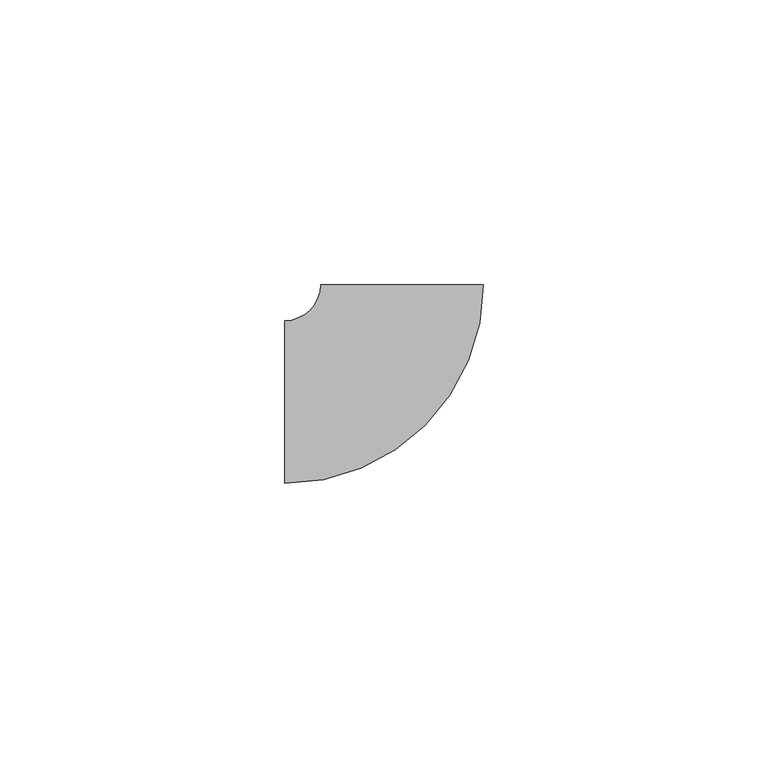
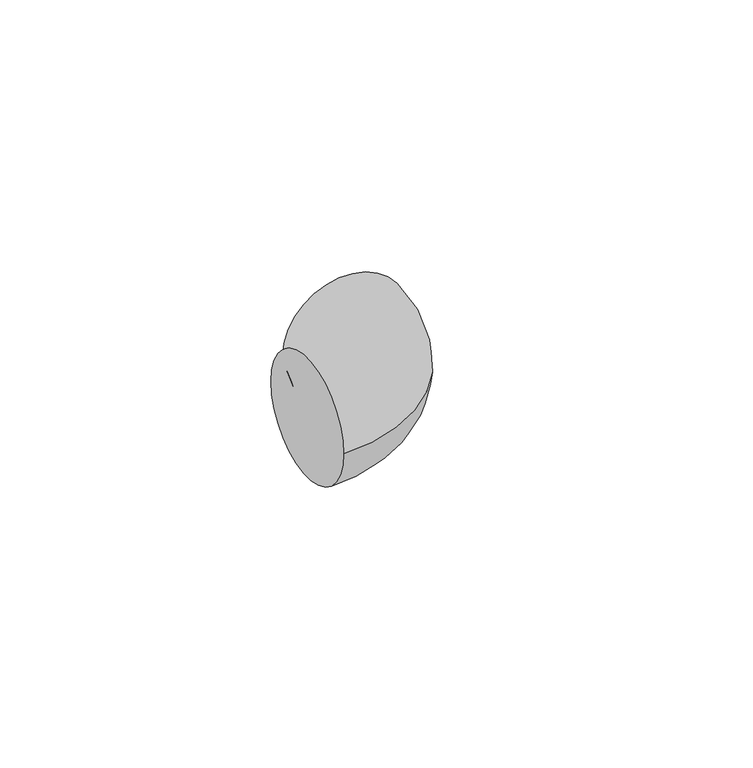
"""IFC4 building model written with IfcOpenShell, lengths in millimetres: pipe fitting geometry, M_Codo - Genérico : Estándar."""

import ifcopenshell
import ifcopenshell.guid

model = None  # the IFC model being written
_history = None  # IfcOwnerHistory: only IFC2X3 demands one
_inside = {}  # id of a spatial element -> (the spatial element, [elements in it])
_under = {}  # id of a project, library or spatial element -> (it, [spatial elements below it])
_declared = {}  # id of a project -> (the project, [libraries it declares])
_typed = {}  # id of a type object -> (the type object, [elements of that type])
_made_of = {}  # id of a material, layer set ... -> (it, [elements and type objects made of it])


def new_model(schema):
    """Start an empty IFC model of exactly this schema.

    Asked for "IFC4X3", IfcOpenShell would pick the latest addendum, in which some entities
    have other attributes; the version numbers below select the first issue.
    IFC2X3 requires an IfcOwnerHistory on every rooted entity: one is made here for all.
    """
    global model, _history
    if schema == "IFC4X3":
        model = ifcopenshell.file(schema_version=(4, 3, 0, 0))
    else:
        model = ifcopenshell.file(schema=schema)
    _inside.clear()
    _under.clear()
    _declared.clear()
    _typed.clear()
    _made_of.clear()
    _history = None
    if model.schema == "IFC2X3":
        org = make("IfcOrganization", Name="unknown")
        user = make(
            "IfcPersonAndOrganization",
            ThePerson=make("IfcPerson", FamilyName="unknown"),
            TheOrganization=org,
        )
        app = make(
            "IfcApplication",
            ApplicationDeveloper=org,
            Version="unknown",
            ApplicationFullName="unknown",
            ApplicationIdentifier="unknown",
        )
        _history = make(
            "IfcOwnerHistory",
            OwningUser=user,
            OwningApplication=app,
            ChangeAction="ADDED",
            CreationDate=0,
        )
    return model


def make(cls, **values):
    """One entity of the class cls with the attributes given. An attribute that is None is left unset."""
    return model.create_entity(
        cls, **{name: value for name, value in values.items() if value is not None}
    )


def rooted(cls, **values):
    """An entity with a GlobalId (a new one), such as an element, a storey or a relation."""
    return make(cls, GlobalId=ifcopenshell.guid.new(), OwnerHistory=_history, **values)


def si_unit(unit_type, name, prefix=None):
    """IfcSIUnit, for example si_unit("LENGTHUNIT", "METRE", prefix="MILLI")."""
    return make("IfcSIUnit", UnitType=unit_type, Prefix=prefix, Name=name)


def assignment(units):
    """IfcUnitAssignment: the units of a project."""
    return None if units is None else make("IfcUnitAssignment", Units=units)


def point(xyz):
    """IfcCartesianPoint."""
    return None if xyz is None else make("IfcCartesianPoint", Coordinates=xyz)


def direction(xyz):
    """IfcDirection."""
    return None if xyz is None else make("IfcDirection", DirectionRatios=xyz)


def frame(location, z_axis=None, x_axis=None):
    """IfcAxis2Placement3D, a coordinate frame: its origin and axes. An axis left out is left unset."""
    return make(
        "IfcAxis2Placement3D",
        Location=point(location),
        Axis=direction(z_axis),
        RefDirection=direction(x_axis),
    )


def origin():
    """The frame at (0, 0, 0) with its axes left unset."""
    return frame((0.0, 0.0, 0.0))


def place(relative_to, where):
    """IfcLocalPlacement: puts the frame where relative to a parent placement (None: the world)."""
    return make(
        "IfcLocalPlacement", PlacementRelTo=relative_to, RelativePlacement=where
    )


def context(
    kind, dimensions, precision=None, world=None, true_north=None, identifier=None
):
    """IfcGeometricRepresentationContext, for example the 3D "Model" context."""
    return make(
        "IfcGeometricRepresentationContext",
        ContextIdentifier=identifier,
        ContextType=kind,
        CoordinateSpaceDimension=dimensions,
        Precision=precision,
        WorldCoordinateSystem=world,
        TrueNorth=true_north,
    )


def project(units=None, contexts=None):
    """IfcProject with its units and contexts."""
    return rooted(
        "IfcProject",
        Name="project",
        RepresentationContexts=contexts,
        UnitsInContext=assignment(units),
    )


def spatial(cls, under=None, at=None, **own):
    """A site, building, storey or space (cls), placed at a placement, below another one or the project."""
    s = rooted(cls, ObjectPlacement=at, **own)
    if under is not None:
        _under.setdefault(under.id(), (under, []))[1].append(s)
    return s


def circle_curve(where, radius):
    """IfcCircle in the frame where."""
    return make("IfcCircle", Position=where, Radius=radius)


def ellipse_curve(where, semi_axis1, semi_axis2):
    """IfcEllipse in the frame where."""
    return make(
        "IfcEllipse", Position=where, SemiAxis1=semi_axis1, SemiAxis2=semi_axis2
    )


def trimmed(basis, trim1, trim2, sense, master):
    """IfcTrimmedCurve: the piece of a basis curve between two trims."""
    return make(
        "IfcTrimmedCurve",
        BasisCurve=basis,
        Trim1=trim1,
        Trim2=trim2,
        SenseAgreement=sense,
        MasterRepresentation=master,
    )


def shape(context_of_items, identifier, shape_type, items):
    """IfcShapeRepresentation: the items that make up one representation, for example the "Body"."""
    return make(
        "IfcShapeRepresentation",
        ContextOfItems=context_of_items,
        RepresentationIdentifier=identifier,
        RepresentationType=shape_type,
        Items=items,
    )


def source(mapping_origin, context_of_items, identifier, shape_type, items):
    """IfcRepresentationMap: a shape defined once, which mapped items show again and again."""
    return make(
        "IfcRepresentationMap",
        MappingOrigin=mapping_origin,
        MappedRepresentation=shape(context_of_items, identifier, shape_type, items),
    )


def transform(
    local_origin,
    x_axis=None,
    y_axis=None,
    z_axis=None,
    scale=None,
    scale2=None,
    scale3=None,
    uniform=True,
):
    """IfcCartesianTransformationOperator3D, or its non-uniform kind. x_axis, y_axis, z_axis: its Axis1, 2, 3."""
    if uniform:
        return make(
            "IfcCartesianTransformationOperator3D",
            Axis1=direction(x_axis),
            Axis2=direction(y_axis),
            LocalOrigin=point(local_origin),
            Scale=scale,
            Axis3=direction(z_axis),
        )
    return make(
        "IfcCartesianTransformationOperator3DnonUniform",
        Axis1=direction(x_axis),
        Axis2=direction(y_axis),
        LocalOrigin=point(local_origin),
        Scale=scale,
        Axis3=direction(z_axis),
        Scale2=scale2,
        Scale3=scale3,
    )


def mapped(mapping_source, mapping_target):
    """IfcMappedItem: shows the shape of a source again, moved by a transform."""
    return make(
        "IfcMappedItem", MappingSource=mapping_source, MappingTarget=mapping_target
    )


def made_of(thing, what):
    """Note that an element or type object is made of a material, layer set ...; save() writes the relation."""
    if what is not None:
        _made_of.setdefault(what.id(), (what, []))[1].append(thing)
    return thing


def element(
    cls,
    number,
    at=None,
    inside=None,
    cuts=None,
    type_object=None,
    material=None,
    context=None,
    identifier="Body",
    shape_type=None,
    held_by="IfcProductDefinitionShape",
    body=None,
    shapes=None,
    **own,
):
    """One element of the class cls, such as IfcWall. Its Tag is "e" and its number.

    at: its placement. inside: the storey or other place that contains it. cuts: it is an
    opening in that element (IfcRelVoidsElement). A single representation is given by context,
    identifier, shape_type and body (its items); several are given by shapes. held_by: the class
    of the entity that holds the representations. save() writes the other relations.
    """
    e = rooted(cls, Tag="e%d" % number, ObjectPlacement=at, **own)
    if body is not None:
        shapes = [shape(context, identifier, shape_type, body)]
    if shapes is not None:
        e.Representation = make(held_by, Representations=shapes)
    if inside is not None:
        _inside.setdefault(inside.id(), (inside, []))[1].append(e)
    if cuts is not None:
        rooted(
            "IfcRelVoidsElement", RelatingBuildingElement=cuts, RelatedOpeningElement=e
        )
    if type_object is not None:
        _typed.setdefault(type_object.id(), (type_object, []))[1].append(e)
    return made_of(e, material)


def aggregate(whole, parts):
    """IfcRelAggregates: a whole, such as a stair, and the parts it consists of."""
    return rooted("IfcRelAggregates", RelatingObject=whole, RelatedObjects=parts)


def save(model, path):
    """Write the relations noted so far, then the file.

    IfcRelAggregates (storeys below a building ...), IfcRelContainedInSpatialStructure (elements
    in a storey), IfcRelDefinesByType, IfcRelAssociatesMaterial and IfcRelDeclares: one each for
    every whole, place, type object, material and project.
    """
    for whole, parts in _under.values():
        aggregate(whole, parts)
    for where, things in _inside.values():
        rooted(
            "IfcRelContainedInSpatialStructure",
            RelatedElements=things,
            RelatingStructure=where,
        )
    for kind, things in _typed.values():
        rooted("IfcRelDefinesByType", RelatedObjects=things, RelatingType=kind)
    for what, things in _made_of.values():
        rooted("IfcRelAssociatesMaterial", RelatedObjects=things, RelatingMaterial=what)
    for by, libraries in _declared.values():
        rooted("IfcRelDeclares", RelatingContext=by, RelatedDefinitions=libraries)
    model.write(path)


def plane_surface(at):
    """IfcPlane: the flat surface through the origin of the frame at, square to its z axis."""
    return make("IfcPlane", Position=at)


def revolved_surface(curve, axis_point, axis_direction):
    """IfcSurfaceOfRevolution: the curve turned about the line through axis_point along axis_direction."""
    return make(
        "IfcSurfaceOfRevolution",
        SweptCurve=make("IfcArbitraryOpenProfileDef", ProfileType="CURVE", Curve=curve),
        AxisPosition=make("IfcAxis1Placement", Location=point(axis_point), Axis=direction(axis_direction)),
    )


def advanced_brep(points, edges, surfaces, faces):
    """IfcAdvancedBrep: a solid bounded by faces that lie on surfaces and meet in shared edges.

    An edge is (start, end): straight between two places in points (the first is 0);
    or (start, end, curve); or (start, end, curve, False) where it runs against its curve.
    A face is (place in surfaces, loops), or (place, loops, False) where it looks against
    its surface's normal. A loop lists edges by number (the first is 1), with a minus sign
    where the edge is run from its end to its start. The first loop is the outer one.
    """
    corners = [point(p) for p in points]
    vertices = [make("IfcVertexPoint", VertexGeometry=c) for c in corners]
    made = []
    for start, end, *more in edges:
        made.append(
            make(
                "IfcEdgeCurve",
                EdgeStart=vertices[start],
                EdgeEnd=vertices[end],
                EdgeGeometry=more[0] if more else make("IfcPolyline", Points=[corners[start], corners[end]]),
                SameSense=more[1] if len(more) > 1 else True,
            )
        )
    hull = []
    for where, loops, *sense in faces:
        bounds = []
        for j, loop in enumerate(loops):
            ring = [make("IfcOrientedEdge", EdgeElement=made[abs(k) - 1], Orientation=k > 0) for k in loop]
            bounds.append(
                make(
                    "IfcFaceOuterBound" if j == 0 else "IfcFaceBound",
                    Bound=make("IfcEdgeLoop", EdgeList=ring),
                    Orientation=True,
                )
            )
        hull.append(make("IfcAdvancedFace", Bounds=bounds, FaceSurface=surfaces[where], SameSense=sense[0] if sense else True))
    return make("IfcAdvancedBrep", Outer=make("IfcClosedShell", CfsFaces=hull))


def pipe_fitting_53320592(model_context):
    return source(origin(), model_context, "Body", "AdvancedBrep", [
        advanced_brep(
        [(-20.6374994, -14.2875, 0.0), (-20.6374994, 14.2875, 0.0), (14.2875006, 20.637499, 0.0), (-14.2874994, 20.6374998, 0.0)],
        [
            (0, 1, circle_curve(frame((-20.6374994, 0.0, 0.0), z_axis=(-1.0, 0.0, 0.0), x_axis=(0.0, 1.0, 0.0)), 14.2875)),
            (1, 0, circle_curve(frame((-20.6374994, 0.0, 0.0), z_axis=(-1.0, 0.0, 0.0), x_axis=(0.0, 1.0, 0.0)), 14.2875)),
            (2, 3, circle_curve(frame((6e-07, 20.6374994, 0.0), z_axis=(2.729980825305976e-08, 0.9999999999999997, 0.0), x_axis=(-0.9999999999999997, 2.729980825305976e-08, 0.0)), 14.2875)),
            (3, 2, circle_curve(frame((6e-07, 20.6374994, 0.0), z_axis=(2.729980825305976e-08, 0.9999999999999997, 0.0), x_axis=(-0.9999999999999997, 2.729980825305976e-08, 0.0)), 14.2875)),
            (3, 1, circle_curve(frame((-20.6374994, 20.6375, 0.0), z_axis=(0.0, 0.0, -1.0), x_axis=(0.0, -1.0, 0.0)), 6.35)),
            (0, 2, circle_curve(frame((-20.6374994, 20.6375, 0.0), z_axis=(0.0, 0.0, 1.0), x_axis=(0.0, -1.0, 0.0)), 34.925)),
        ],
        [
            plane_surface(frame((-20.6374994, 0.0, 0.0), z_axis=(-1.0, 0.0, 0.0), x_axis=(0.0, 0.0, 1.0))),
            plane_surface(frame((6e-07, 20.6374994, 0.0), z_axis=(2.7299808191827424e-08, 0.9999999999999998, 0.0), x_axis=(0.0, 0.0, 1.0))),
            revolved_surface(trimmed(ellipse_curve(frame((-20.6374994, 0.0, 0.0), z_axis=(-1.0, 0.0, 0.0), x_axis=(0.0, 1.0, 0.0)), 14.2875, 14.2875), [point((-20.6374994, -14.2875, 0.0))], [point((-20.6374994, 14.2875, 0.0))], True, "CARTESIAN"), (-20.6374994, 20.6375, 0.0), (0.0, 0.0, 1.0)),
            revolved_surface(trimmed(ellipse_curve(frame((-20.6374994, 0.0, 0.0), z_axis=(-1.0, 0.0, 0.0), x_axis=(0.0, 1.0, 0.0)), 14.2875, 14.2875), [point((-20.6374994, 14.2875, 0.0))], [point((-20.6374994, -14.2875, 0.0))], True, "CARTESIAN"), (-20.6374994, 20.6375, 0.0), (0.0, 0.0, 1.0)),
        ],
        [
            (0, [[1, 2]]),
            (1, [[3, 4]]),
            (2, [[5, -1, 6, -4]]),
            (3, [[-6, -2, -5, -3]]),
        ],
    ),
    ])


if __name__ == "__main__":
    model = new_model("IFC4")
    model_context = context("Model", 3, world=origin())
    ifc_project = project(units=[si_unit("LENGTHUNIT", "METRE", prefix="MILLI")], contexts=[model_context])
    site = spatial("IfcSite", under=ifc_project)
    building = spatial("IfcBuilding", under=site)
    placement = place(None, origin())
    pipe_fitting_shape = pipe_fitting_53320592(model_context)
    element("IfcPipeFitting", 1, ObjectType="M_Codo - Genérico : Estándar", at=placement, inside=building, context=model_context, shape_type="MappedRepresentation", body=[
        mapped(pipe_fitting_shape, transform((0.0, 0.0, 0.0), x_axis=(1.0, 0.0, 0.0), y_axis=(0.0, 1.0, 0.0), z_axis=(0.0, 0.0, 1.0))),
    ])
    save(model, "model.ifc")
